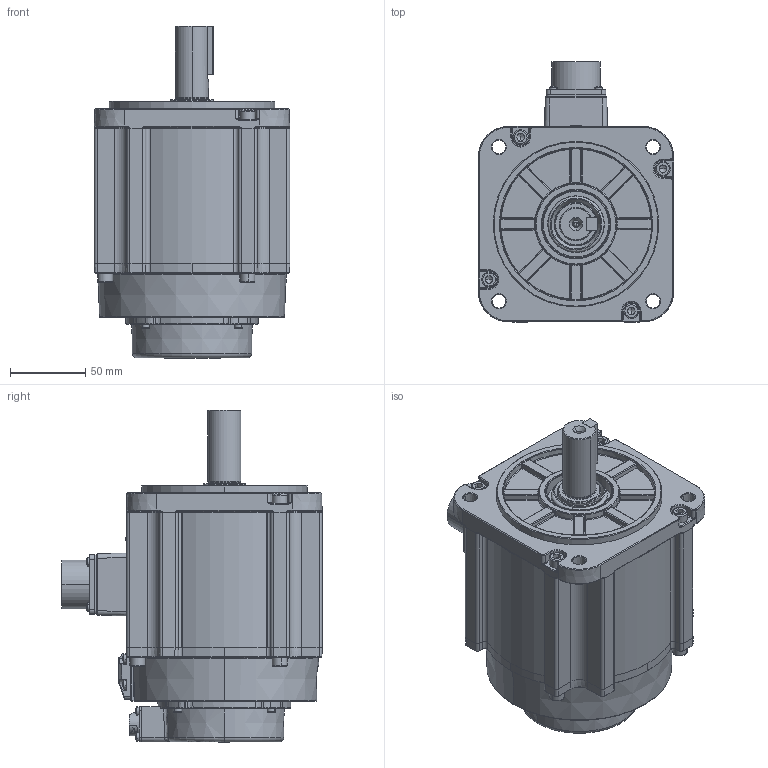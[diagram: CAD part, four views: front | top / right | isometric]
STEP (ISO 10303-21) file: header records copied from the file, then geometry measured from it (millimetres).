
FILE_DESCRIPTION (( 'STEP AP203' ), '1' );
FILE_NAME ('4031308-[][][][]_130µç»ú_DM1M-09A130[]8E_A0.STEP', '2020-07-06T07:41:34', ( '' ), ( '' ), 'SwSTEP 2.0', 'SolidWorks 2018', '' );
FILE_SCHEMA (( 'CONFIG_CONTROL_DESIGN' ));
Length unit declared in the file: millimetre
Products named in the file (1): 4031308-[][][][]_130萇儂_DM1M-09A130[]8E_A0
Bounding box: 130 x 173 x 220.7 mm (x, y, z)
Surface area: 151528.9 mm2 (no closed solid volume)
Topology: 0 solids, 58 shells, 1454 faces, 4442 edges, 2887 vertices
Faces by surface type: plane 481, cylinder 351, cone 212, bspline 198, torus 164, sphere 48
Entity records: 56592 total; most frequent: CARTESIAN_POINT 18864, DIRECTION 7916, ORIENTED_EDGE 7337, EDGE_CURVE 4386, AXIS2_PLACEMENT_3D 3016, VERTEX_POINT 2885, VECTOR 1884, LINE 1884
